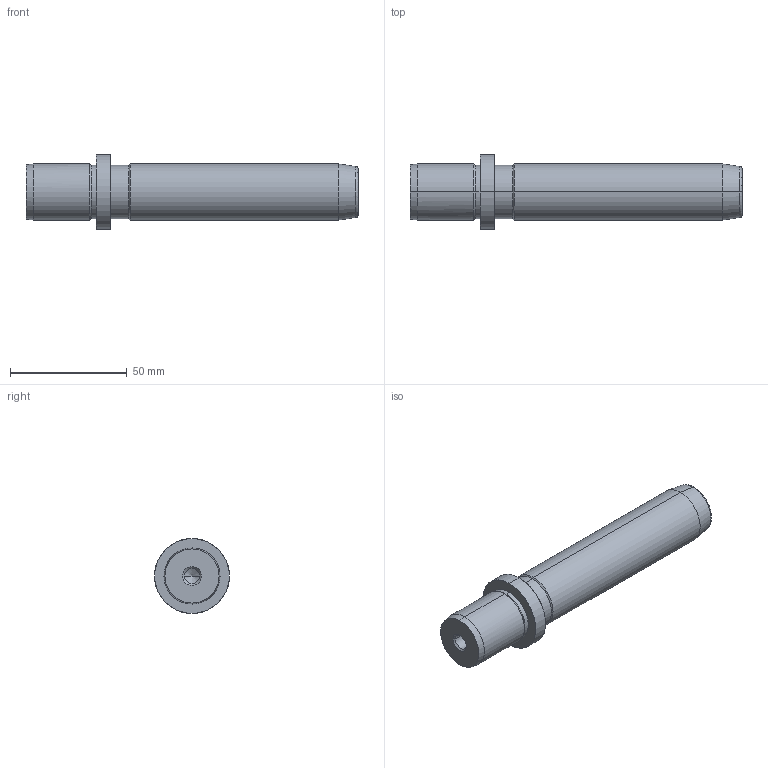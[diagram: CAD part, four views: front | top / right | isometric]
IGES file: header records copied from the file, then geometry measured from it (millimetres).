
Start section: START RECORD GO HERE.
Global section: file name: 719-24x112.igs; native system: DASSAULT SYSTEMES CATIA V5 R20 - www.3ds.com; preprocessor: CATIA Version 5 Release 20 ; author: Utente; organization: NB04-ASUS; date: 20210103.173439; units: millimetre
Bounding box: 142 x 32 x 32 mm (x, y, z)
Surface area: 13363.3 mm2 (no closed solid volume)
Topology: 0 solids, 0 shells, 36 faces, 196 edges, 192 vertices
Faces by surface type: revolution 32, plane 4
